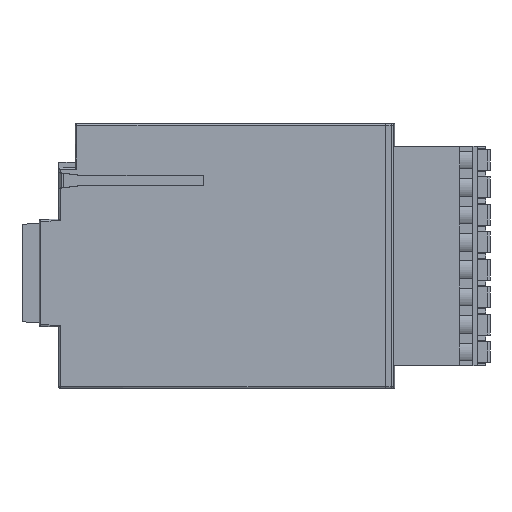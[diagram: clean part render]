
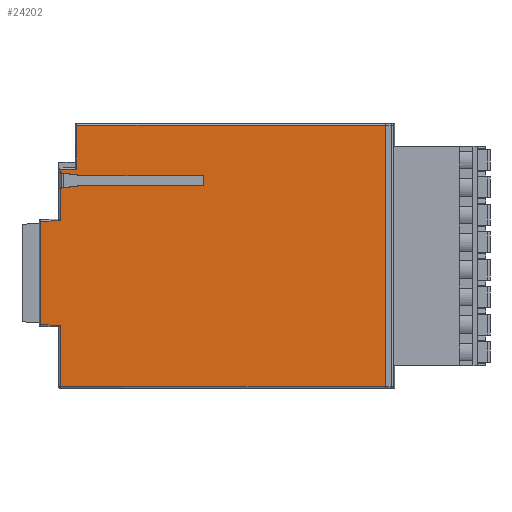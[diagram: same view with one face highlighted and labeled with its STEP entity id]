
A CAD part, front view. The second image highlights one B-rep face of the part: STEP entity #24202.
In plain terms, the highlighted planar face has unit normal (0, -1, 0).
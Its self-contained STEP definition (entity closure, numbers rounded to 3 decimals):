
#69=DIRECTION('',(0.,0.,-1.));
#70=VECTOR('',#69,11.164);
#71=CARTESIAN_POINT('',(-25.7,-4.,-12.636));
#72=LINE('',#71,#70);
#95=DIRECTION('',(-0.999,0.,0.035));
#96=VECTOR('',#95,3.602);
#97=CARTESIAN_POINT('',(-25.7,-4.,-12.636));
#98=LINE('',#97,#96);
#102=DIRECTION('',(0.999,0.,0.035));
#103=VECTOR('',#102,3.602);
#104=CARTESIAN_POINT('',(-29.3,-4.,6.31));
#105=LINE('',#104,#103);
#109=DIRECTION('',(0.992,0.,0.124));
#110=VECTOR('',#109,3.731);
#111=CARTESIAN_POINT('',(-25.7,-4.,12.35));
#112=LINE('',#111,#110);
#116=DIRECTION('',(1.,0.,0.));
#117=VECTOR('',#116,22.345);
#118=CARTESIAN_POINT('',(-21.998,-4.,12.813));
#119=LINE('',#118,#117);
#123=DIRECTION('',(0.,0.,1.));
#124=VECTOR('',#123,1.874);
#125=CARTESIAN_POINT('',(0.347,-4.,12.813));
#126=LINE('',#125,#124);
#130=DIRECTION('',(-0.992,0.,0.124));
#131=VECTOR('',#130,3.731);
#132=CARTESIAN_POINT('',(-21.998,-4.,14.687));
#133=LINE('',#132,#131);
#137=DIRECTION('',(0.999,0.,0.035));
#138=VECTOR('',#137,3.002);
#139=CARTESIAN_POINT('',(-25.7,-4.,15.706));
#140=LINE('',#139,#138);
#144=DIRECTION('',(0.,0.,-1.));
#145=VECTOR('',#144,47.6);
#146=CARTESIAN_POINT('',(33.5,-4.,23.8));
#147=LINE('',#146,#145);
#158=DIRECTION('',(1.,0.,0.));
#159=VECTOR('',#158,59.2);
#160=CARTESIAN_POINT('',(-25.7,-4.,-23.8));
#161=LINE('',#160,#159);
#313=DIRECTION('',(-1.,0.,0.));
#314=VECTOR('',#313,56.2);
#315=CARTESIAN_POINT('',(33.5,-4.,23.8));
#316=LINE('',#315,#314);
#351=DIRECTION('',(0.,0.,-1.));
#352=VECTOR('',#351,7.99);
#353=CARTESIAN_POINT('',(-22.7,-4.,23.8));
#354=LINE('',#353,#352);
#477=DIRECTION('',(0.,0.,-1.));
#478=VECTOR('',#477,0.556);
#479=CARTESIAN_POINT('',(-25.7,-4.,15.706));
#480=LINE('',#479,#478);
#527=DIRECTION('',(1.,0.,0.));
#528=VECTOR('',#527,22.345);
#529=CARTESIAN_POINT('',(-21.998,-4.,14.687));
#530=LINE('',#529,#528);
#574=DIRECTION('',(0.,0.,-1.));
#575=VECTOR('',#574,5.914);
#576=CARTESIAN_POINT('',(-25.7,-4.,12.35));
#577=LINE('',#576,#575);
#635=DIRECTION('',(0.,0.,-1.));
#636=VECTOR('',#635,18.821);
#637=CARTESIAN_POINT('',(-29.3,-4.,6.31));
#638=LINE('',#637,#636);
#20615=CARTESIAN_POINT('',(-25.7,-4.,-12.636));
#20616=CARTESIAN_POINT('',(-25.7,-4.,-23.8));
#20617=VERTEX_POINT('',#20615);
#20618=VERTEX_POINT('',#20616);
#20619=CARTESIAN_POINT('',(33.5,-4.,-23.8));
#20620=VERTEX_POINT('',#20619);
#20621=CARTESIAN_POINT('',(-29.3,-4.,-12.51));
#20622=VERTEX_POINT('',#20621);
#20623=CARTESIAN_POINT('',(-29.3,-4.,6.31));
#20624=VERTEX_POINT('',#20623);
#20625=CARTESIAN_POINT('',(-25.7,-4.,6.436));
#20626=VERTEX_POINT('',#20625);
#20627=CARTESIAN_POINT('',(-25.7,-4.,
12.35));
#20628=VERTEX_POINT('',#20627);
#20629=CARTESIAN_POINT('',(-21.998,-4.,
12.813));
#20630=VERTEX_POINT('',#20629);
#20631=CARTESIAN_POINT('',(0.347,-4.,
12.813));
#20632=VERTEX_POINT('',#20631);
#20633=CARTESIAN_POINT('',(0.347,-4.,
14.687));
#20634=VERTEX_POINT('',#20633);
#20635=CARTESIAN_POINT('',(-21.998,-4.,
14.687));
#20636=VERTEX_POINT('',#20635);
#20637=CARTESIAN_POINT('',(-25.7,-4.,
15.15));
#20638=VERTEX_POINT('',#20637);
#20639=CARTESIAN_POINT('',(-25.7,-4.,15.706));
#20640=VERTEX_POINT('',#20639);
#20641=CARTESIAN_POINT('',(-22.7,-4.,15.81));
#20642=VERTEX_POINT('',#20641);
#20643=CARTESIAN_POINT('',(-22.7,-4.,23.8));
#20644=VERTEX_POINT('',#20643);
#20645=CARTESIAN_POINT('',(33.5,-4.,23.8));
#20646=VERTEX_POINT('',#20645);
#24164=CARTESIAN_POINT('',(-25.,-4.,23.1));
#24165=DIRECTION('',(0.,-1.,0.));
#24166=DIRECTION('',(0.,0.,-1.));
#24167=AXIS2_PLACEMENT_3D('',#24164,#24165,#24166);
#24168=PLANE('',#24167);
#24170=ORIENTED_EDGE('',*,*,#24169,.F.);
#24171=ORIENTED_EDGE('',*,*,#24142,.F.);
#24173=ORIENTED_EDGE('',*,*,#24172,.T.);
#24175=ORIENTED_EDGE('',*,*,#24174,.F.);
#24177=ORIENTED_EDGE('',*,*,#24176,.T.);
#24179=ORIENTED_EDGE('',*,*,#24178,.F.);
#24181=ORIENTED_EDGE('',*,*,#24180,.T.);
#24183=ORIENTED_EDGE('',*,*,#24182,.T.);
#24185=ORIENTED_EDGE('',*,*,#24184,.T.);
#24187=ORIENTED_EDGE('',*,*,#24186,.F.);
#24189=ORIENTED_EDGE('',*,*,#24188,.T.);
#24191=ORIENTED_EDGE('',*,*,#24190,.F.);
#24193=ORIENTED_EDGE('',*,*,#24192,.T.);
#24195=ORIENTED_EDGE('',*,*,#24194,.F.);
#24197=ORIENTED_EDGE('',*,*,#24196,.F.);
#24199=ORIENTED_EDGE('',*,*,#24198,.T.);
#24200=EDGE_LOOP('',(#24170,#24171,#24173,#24175,#24177,#24179,#24181,#24183,
#24185,#24187,#24189,#24191,#24193,#24195,#24197,#24199));
#24201=FACE_OUTER_BOUND('',#24200,.F.);
#24202=ADVANCED_FACE('',(#24201),#24168,.T.);
#24142=EDGE_CURVE('',#20617,#20618,#72,.T.);
#24169=EDGE_CURVE('',#20618,#20620,#161,.T.);
#24172=EDGE_CURVE('',#20617,#20622,#98,.T.);
#24174=EDGE_CURVE('',#20624,#20622,#638,.T.);
#24176=EDGE_CURVE('',#20624,#20626,#105,.T.);
#24178=EDGE_CURVE('',#20628,#20626,#577,.T.);
#24180=EDGE_CURVE('',#20628,#20630,#112,.T.);
#24182=EDGE_CURVE('',#20630,#20632,#119,.T.);
#24184=EDGE_CURVE('',#20632,#20634,#126,.T.);
#24186=EDGE_CURVE('',#20636,#20634,#530,.T.);
#24188=EDGE_CURVE('',#20636,#20638,#133,.T.);
#24190=EDGE_CURVE('',#20640,#20638,#480,.T.);
#24192=EDGE_CURVE('',#20640,#20642,#140,.T.);
#24194=EDGE_CURVE('',#20644,#20642,#354,.T.);
#24196=EDGE_CURVE('',#20646,#20644,#316,.T.);
#24198=EDGE_CURVE('',#20646,#20620,#147,.T.);
